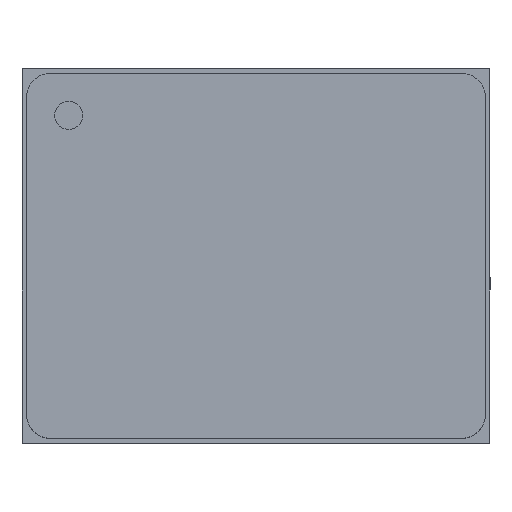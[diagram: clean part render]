
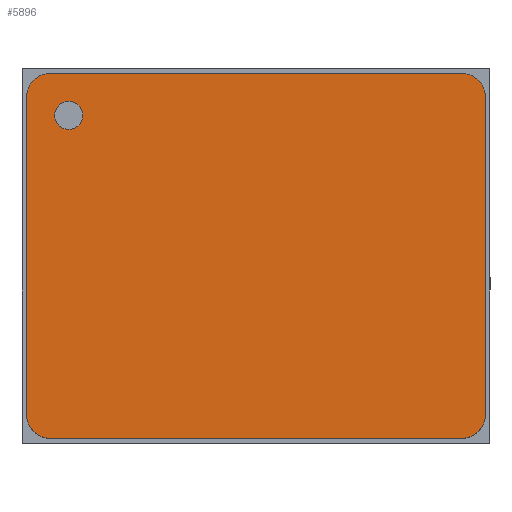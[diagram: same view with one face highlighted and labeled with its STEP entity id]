
A CAD part, top view. The second image highlights one B-rep face of the part: STEP entity #5896.
In plain terms, the highlighted planar face has unit normal (0, 0, 1).
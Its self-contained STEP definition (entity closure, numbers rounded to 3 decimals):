
#246 = CARTESIAN_POINT ( 'NONE',  ( 13.3, 16.748, 2.5 ) ) ;
#250 = EDGE_CURVE ( 'NONE', #566, #6097, #396, .T. ) ;
#304 = CARTESIAN_POINT ( 'NONE',  ( 13.3, 8.948, 2.5 ) ) ;
#350 = DIRECTION ( 'NONE',  ( 1., 0., 0. ) ) ;
#396 = CIRCLE ( 'NONE', #3999, 0.5 ) ;
#414 = ORIENTED_EDGE ( 'NONE', *, *, #250, .T. ) ;
#499 = EDGE_CURVE ( 'NONE', #2891, #2583, #5209, .T. ) ;
#566 = VERTEX_POINT ( 'NONE', #3500 ) ;
#612 = DIRECTION ( 'NONE',  ( 0., 0., 1. ) ) ;
#621 = DIRECTION ( 'NONE',  ( -1., 0., 0. ) ) ;
#668 = VECTOR ( 'NONE', #5195, 1000. ) ;
#738 = DIRECTION ( 'NONE',  ( -1., 0., 0. ) ) ;
#791 = AXIS2_PLACEMENT_3D ( 'NONE', #1166, #3564, #3599 ) ;
#812 = DIRECTION ( 'NONE',  ( 0., 0., 1. ) ) ;
#817 = CARTESIAN_POINT ( 'NONE',  ( 4.6, 15.848, 2.5 ) ) ;
#1166 = CARTESIAN_POINT ( 'NONE',  ( 4.5, 16.248, 2.5 ) ) ;
#1185 = CARTESIAN_POINT ( 'NONE',  ( 4.9, 15.848, 2.5 ) ) ;
#1230 = ORIENTED_EDGE ( 'NONE', *, *, #4926, .F. ) ;
#1241 = VERTEX_POINT ( 'NONE', #4314 ) ;
#1331 = CARTESIAN_POINT ( 'NONE',  ( 13.8, 9.448, 2.5 ) ) ;
#1479 = VECTOR ( 'NONE', #621, 1000. ) ;
#1536 = ORIENTED_EDGE ( 'NONE', *, *, #499, .T. ) ;
#1548 = CARTESIAN_POINT ( 'NONE',  ( 4., 9.448, 2.5 ) ) ;
#1572 = CARTESIAN_POINT ( 'NONE',  ( 5.2, 15.848, 2.5 ) ) ;
#1710 = DIRECTION ( 'NONE',  ( 0., 0., 1. ) ) ;
#1746 = DIRECTION ( 'NONE',  ( 0., 0., 1. ) ) ;
#1783 = AXIS2_PLACEMENT_3D ( 'NONE', #4651, #812, #3222 ) ;
#1851 = CIRCLE ( 'NONE', #4988, 0.3 ) ;
#1860 = CARTESIAN_POINT ( 'NONE',  ( 4., 9.448, 2.5 ) ) ;
#1889 = ORIENTED_EDGE ( 'NONE', *, *, #3977, .T. ) ;
#1904 = CIRCLE ( 'NONE', #5228, 0.5 ) ;
#1974 = LINE ( 'NONE', #1860, #668 ) ;
#1980 = VERTEX_POINT ( 'NONE', #1331 ) ;
#2109 = PLANE ( 'NONE',  #791 ) ;
#2110 = CARTESIAN_POINT ( 'NONE',  ( 13.8, 16.248, 2.5 ) ) ;
#2249 = CARTESIAN_POINT ( 'NONE',  ( 13.3, 16.248, 2.5 ) ) ;
#2338 = DIRECTION ( 'NONE',  ( 1., 0., 0. ) ) ;
#2408 = VERTEX_POINT ( 'NONE', #1572 ) ;
#2537 = EDGE_CURVE ( 'NONE', #1241, #5472, #1904, .T. ) ;
#2583 = VERTEX_POINT ( 'NONE', #304 ) ;
#2624 = EDGE_CURVE ( 'NONE', #5472, #2830, #1974, .T. ) ;
#2708 = VECTOR ( 'NONE', #5530, 1000. ) ;
#2793 = LINE ( 'NONE', #4992, #1479 ) ;
#2830 = VERTEX_POINT ( 'NONE', #1548 ) ;
#2881 = DIRECTION ( 'NONE',  ( -1., 0., 0. ) ) ;
#2891 = VERTEX_POINT ( 'NONE', #4941 ) ;
#2904 = DIRECTION ( 'NONE',  ( 0., 0., 1. ) ) ;
#2918 = ORIENTED_EDGE ( 'NONE', *, *, #3194, .T. ) ;
#2943 = LINE ( 'NONE', #2110, #2708 ) ;
#3002 = AXIS2_PLACEMENT_3D ( 'NONE', #5348, #2904, #2881 ) ;
#3194 = EDGE_CURVE ( 'NONE', #2830, #2891, #6270, .T. ) ;
#3222 = DIRECTION ( 'NONE',  ( -1., 0., 0. ) ) ;
#3337 = EDGE_CURVE ( 'NONE', #6097, #1241, #2793, .T. ) ;
#3500 = CARTESIAN_POINT ( 'NONE',  ( 13.8, 16.248, 2.5 ) ) ;
#3553 = AXIS2_PLACEMENT_3D ( 'NONE', #1185, #612, #5068 ) ;
#3564 = DIRECTION ( 'NONE',  ( 0., 0., -1. ) ) ;
#3599 = DIRECTION ( 'NONE',  ( -1., 0., 0. ) ) ;
#3862 = ORIENTED_EDGE ( 'NONE', *, *, #5390, .T. ) ;
#3977 = EDGE_CURVE ( 'NONE', #1980, #566, #2943, .T. ) ;
#3999 = AXIS2_PLACEMENT_3D ( 'NONE', #2249, #1746, #5666 ) ;
#4013 = FACE_BOUND ( 'NONE', #6018, .T. ) ;
#4126 = ORIENTED_EDGE ( 'NONE', *, *, #3337, .T. ) ;
#4175 = CARTESIAN_POINT ( 'NONE',  ( 4.5, 16.248, 2.5 ) ) ;
#4284 = VECTOR ( 'NONE', #350, 1000. ) ;
#4314 = CARTESIAN_POINT ( 'NONE',  ( 4.5, 16.748, 2.5 ) ) ;
#4346 = CIRCLE ( 'NONE', #1783, 0.5 ) ;
#4471 = FACE_OUTER_BOUND ( 'NONE', #4795, .T. ) ;
#4651 = CARTESIAN_POINT ( 'NONE',  ( 13.3, 9.448, 2.5 ) ) ;
#4672 = CARTESIAN_POINT ( 'NONE',  ( 4., 16.248, 2.5 ) ) ;
#4760 = CIRCLE ( 'NONE', #3553, 0.3 ) ;
#4789 = ORIENTED_EDGE ( 'NONE', *, *, #2537, .T. ) ;
#4795 = EDGE_LOOP ( 'NONE', ( #4789, #5842, #2918, #1536, #3862, #1889, #414, #4126 ) ) ;
#4848 = VERTEX_POINT ( 'NONE', #817 ) ;
#4926 = EDGE_CURVE ( 'NONE', #2408, #4848, #1851, .T. ) ;
#4941 = CARTESIAN_POINT ( 'NONE',  ( 4.5, 8.948, 2.5 ) ) ;
#4988 = AXIS2_PLACEMENT_3D ( 'NONE', #5232, #5250, #2338 ) ;
#4992 = CARTESIAN_POINT ( 'NONE',  ( 4.5, 16.748, 2.5 ) ) ;
#5068 = DIRECTION ( 'NONE',  ( 1., 0., 0. ) ) ;
#5195 = DIRECTION ( 'NONE',  ( 0., -1., 0. ) ) ;
#5209 = LINE ( 'NONE', #6144, #4284 ) ;
#5228 = AXIS2_PLACEMENT_3D ( 'NONE', #4175, #1710, #738 ) ;
#5232 = CARTESIAN_POINT ( 'NONE',  ( 4.9, 15.848, 2.5 ) ) ;
#5250 = DIRECTION ( 'NONE',  ( 0., 0., 1. ) ) ;
#5348 = CARTESIAN_POINT ( 'NONE',  ( 4.5, 9.448, 2.5 ) ) ;
#5390 = EDGE_CURVE ( 'NONE', #2583, #1980, #4346, .T. ) ;
#5472 = VERTEX_POINT ( 'NONE', #4672 ) ;
#5530 = DIRECTION ( 'NONE',  ( 0., 1., 0. ) ) ;
#5666 = DIRECTION ( 'NONE',  ( -1., 0., 0. ) ) ;
#5842 = ORIENTED_EDGE ( 'NONE', *, *, #2624, .T. ) ;
#5896 = ADVANCED_FACE ( 'NONE', ( #4013, #4471 ), #2109, .F. ) ;
#5924 = EDGE_CURVE ( 'NONE', #4848, #2408, #4760, .T. ) ;
#6018 = EDGE_LOOP ( 'NONE', ( #1230, #6271 ) ) ;
#6097 = VERTEX_POINT ( 'NONE', #246 ) ;
#6144 = CARTESIAN_POINT ( 'NONE',  ( 13.3, 8.948, 2.5 ) ) ;
#6270 = CIRCLE ( 'NONE', #3002, 0.5 ) ;
#6271 = ORIENTED_EDGE ( 'NONE', *, *, #5924, .F. ) ;
